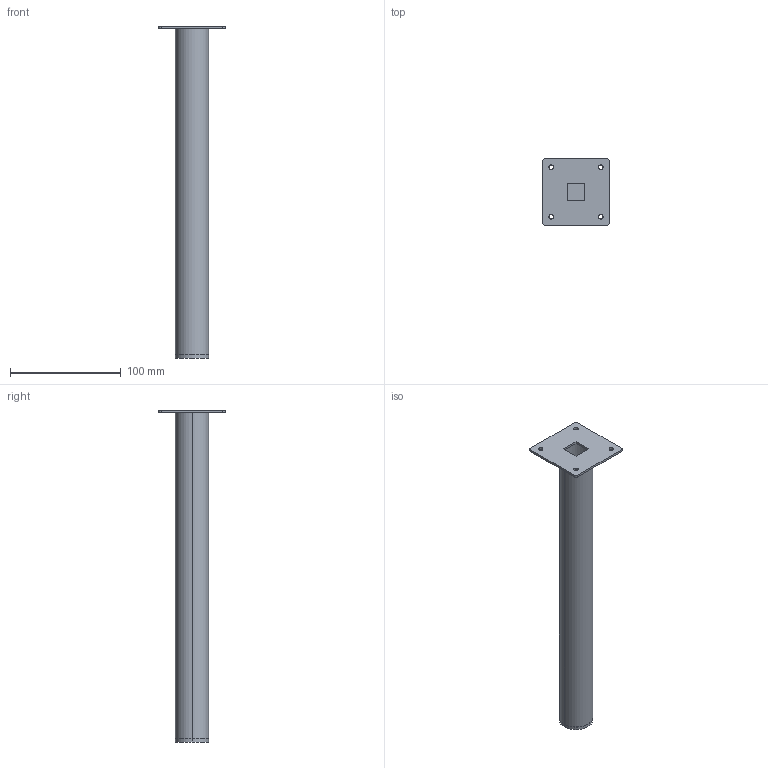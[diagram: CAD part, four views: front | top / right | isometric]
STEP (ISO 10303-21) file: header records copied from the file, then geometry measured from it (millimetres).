
FILE_DESCRIPTION( ( '' ), '1' );
FILE_NAME( 'D:/temp/hettich_stp/hettich/6.5_furniture_legs/table_legs/45775.stp', '2013-02-26T12:27:24', ( '' ), ( '' ), ' ', ' ', ' ' );
FILE_SCHEMA( ( 'automotive_design' ) );
Length unit declared in the file: millimetre
Products named in the file (1): 1
Bounding box: 60 x 60 x 300 mm (x, y, z)
Volume: 35559.5 mm3; surface area: 62728.4 mm2
Topology: 1 solids, 1 shells, 35 faces, 84 edges, 56 vertices
Faces by surface type: cylinder 20, plane 15
Entity records: 2058 total; most frequent: DIRECTION 196, STYLED_ITEM 176, PRESENTATION_STYLE_ASSIGNMENT 176, CARTESIAN_POINT 176, COLOUR_RGB 176, ORIENTED_EDGE 168, EDGE_CURVE 84, CURVE_STYLE 84
